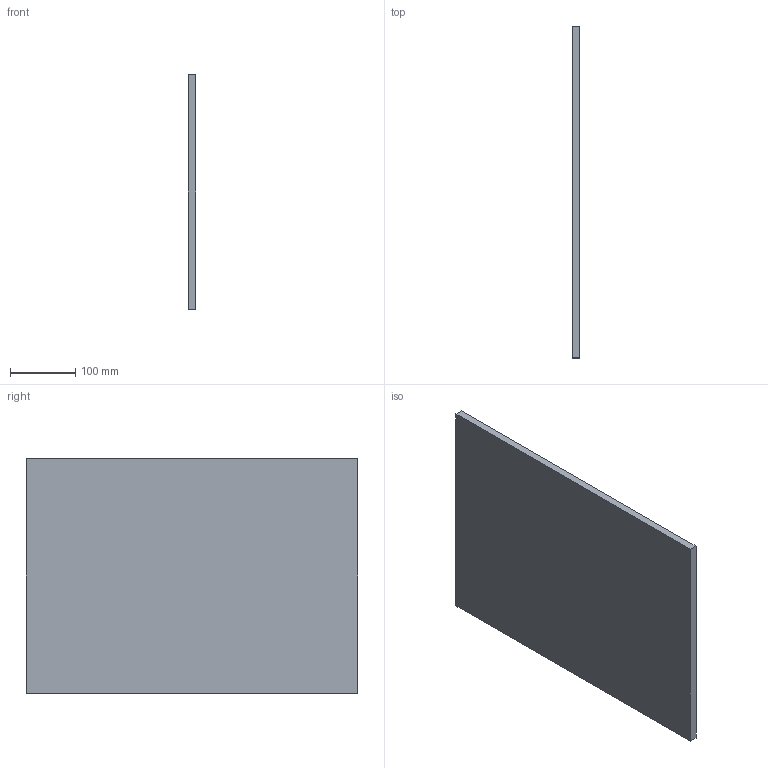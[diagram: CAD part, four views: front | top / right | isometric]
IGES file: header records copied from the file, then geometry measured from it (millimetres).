
Start section: Data from Parasolid IGES Translator 19.0.9, Copyright(c) 2006 Siemens PL M Software. All Rights Reserved.
Global section: file name: noorth-SI-H 36 D 51 W 1,2_9041.igs; native system: By Siemens PLM Incorporated; preprocessor: XPlus GENERIC/IGES 19.0.9; author: Noname; organization: Noname; date: 20200710.084547; units: metre
Bounding box: 12 x 508 x 360 mm (x, y, z)
Volume: 2194560 mm3; surface area: 386592 mm2
Topology: 1 solids, 1 shells, 6 faces, 12 edges, 8 vertices
Faces by surface type: plane 6
